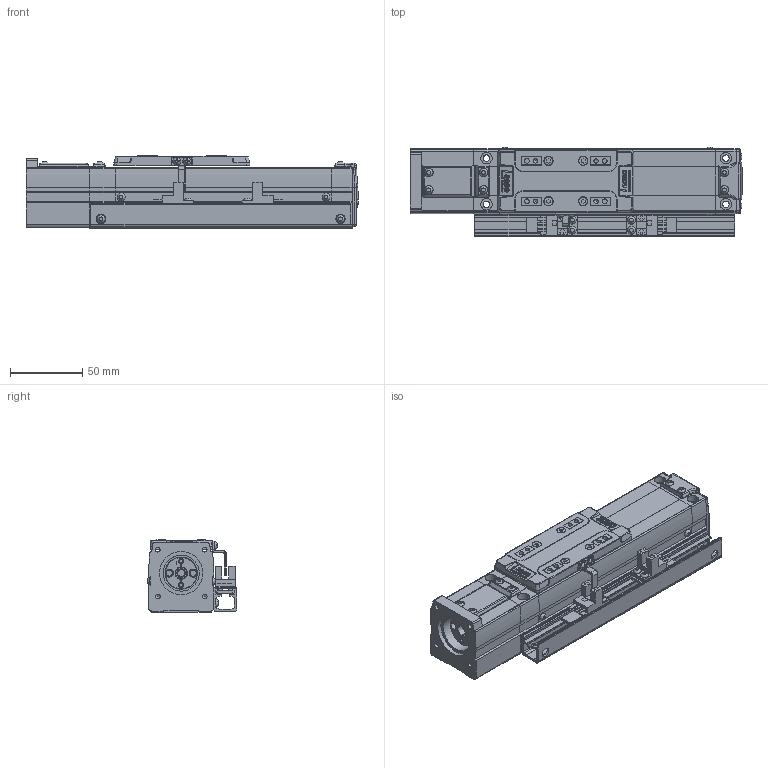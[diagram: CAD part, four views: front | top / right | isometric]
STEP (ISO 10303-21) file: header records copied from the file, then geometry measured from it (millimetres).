
FILE_DESCRIPTION(('STEP AP214'),'1');
FILE_NAME('Z:/Web/3D/SAN45/STP/SAN45ㅁㅁ-050S+2SR.stp','2012-06-15T03:57:33',(' '),(' '),'Spatial InterOp 3D',' ',' ');
FILE_SCHEMA(('automotive_design'));
Length unit declared in the file: metre
Products named in the file (81): SAN45__-050; BODY-SAN45; REAR-SAN45; RRCV-SAN45; BHCS M3 x 6L; BHCS M3 X 6L; FRONT-SAN45; SHAFT; RN8 x 0.75; SSFX-SAN45; SLIDE-SAN45; SLCV-IM45; FHCS M3 x 6L; ____93; S; MTHZ-SAN45; SDWB 22C-6-8; SDWB22C(2); SDWB22C(2)_1; SDWB22C(3); SDWB22C(3)_1; SDWB22C(3)_2; SDWB22C(3)_3; SDWB22C(3)_4; SDWB22C(3)_5; SDWB22C(3)_6; SDWB22C(3)_7; SDWB22C(3)_8; SDWB22C(3)_9; SDWB22C(3)_10; SDWB22C(3)_11; SDWB22C(3)_12; SDWB22C(3)_13; SDWB22C(3)_14; SDWB22C(3)_15; SDWB22C(4); SDWB22C(5); SDWB22C(5)_1; SDWB22C(5)_2; SDWB22C(5)_3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
Assembly tree (80 placements, depth 4):
  ____93
    SAN45__-050
      BODY-SAN45
      REAR-SAN45
        REAR-SAN45
        RRCV-SAN45
        BHCS M3 x 6L
        BHCS M3 X 6L
        BHCS M3 x 6L
        BHCS M3 x 6L
        BHCS M3 x 6L
        BHCS M3 x 6L
      FRONT-SAN45
        FRONT-SAN45
        SHAFT
        RN8 x 0.75
        SSFX-SAN45
        BHCS M3 x 6L
        BHCS M3 x 6L
        BHCS M3 x 6L
        BHCS M3 x 6L
      SLIDE-SAN45
        SLIDE-SAN45
        SLCV-IM45
        FHCS M3 x 6L
        FHCS M3 x 6L
        FHCS M3 x 6L
        FHCS M3 x 6L
    S
      MTHZ-SAN45
      SDWB 22C-6-8
        SDWB22C(2)
        SDWB22C(2)_1
        SDWB22C(3)
        SDWB22C(3)_1
        SDWB22C(3)_2
        SDWB22C(3)_3
        SDWB22C(3)_4
        SDWB22C(3)_5
        SDWB22C(3)_6
        SDWB22C(3)_7
        SDWB22C(3)_8
        SDWB22C(3)_9
        SDWB22C(3)_10
        SDWB22C(3)_11
        SDWB22C(3)_12
        SDWB22C(3)_13
        SDWB22C(3)_14
        SDWB22C(3)_15
        SDWB22C(4)
        SDWB22C(5)
        SDWB22C(5)_1
        SDWB22C(5)_2
        SDWB22C(5)_3
        SDWB22C(5)_4
        SDWB22C(5)_5
        SDWB22C(5)_6
        SDWB22C(5)_7
        SDWA22C(1)
        SDWA22C(1)
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Bounding box: 230.15 x 62.06 x 50 mm (x, y, z)
Volume: 443087 mm3; surface area: 128846.1 mm2
Topology: 70 solids, 70 shells, 2265 faces, 5771 edges, 3720 vertices
Faces by surface type: plane 1343, cylinder 645, cone 149, sphere 52, bspline 46, torus 27, extrusion 3
Full cylindrical faces by diameter (mm): 0.376 x2, 0.47 x1, 1.137 x2, 1.421 x1, 1.665 x4, 2.081 x2, 2.2 x4, 2.5 x43, 2.6 x14, 2.7 x2, 3 x10, 3.193 x4, 3.3 x8, 3.4 x4, 3.5 x14, 3.991 x2, 4.2 x3, 4.5 x28, 4.9 x2, 5 x13, 6 x9, 6.5 x2, 7 x1, 8 x9, 9 x1, 10.7 x2, 13 x1, 15 x1, 19 x1, 22.2 x3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
Entity records: 90099 total; most frequent: CARTESIAN_POINT 16491, DIRECTION 11395, ORIENTED_EDGE 10536, EDGE_CURVE 5268, AXIS2_PLACEMENT_3D 3993, VERTEX_POINT 3593, VECTOR 3409, LINE 3406
